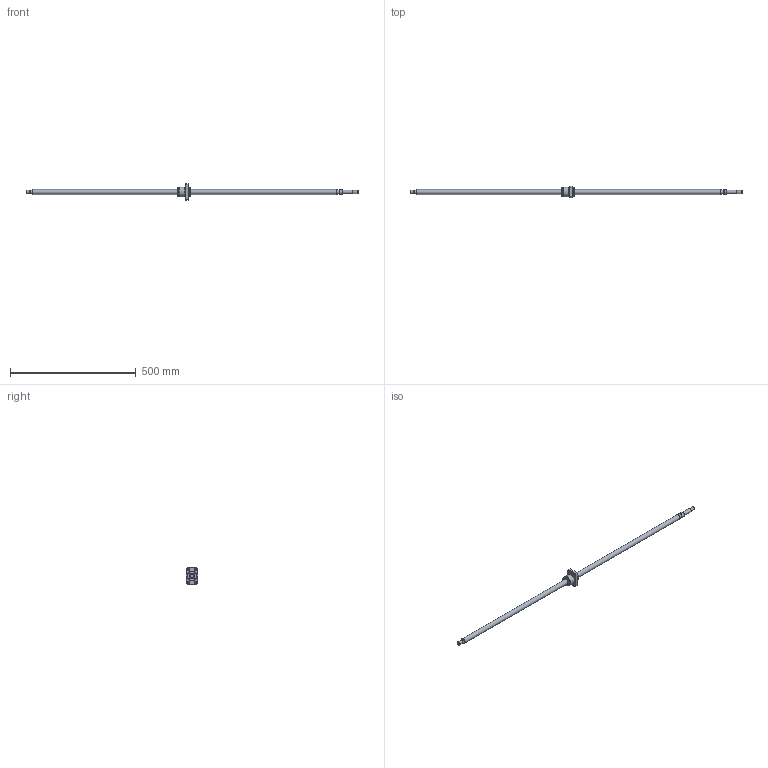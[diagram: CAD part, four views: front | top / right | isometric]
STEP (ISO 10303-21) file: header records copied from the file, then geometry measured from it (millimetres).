
FILE_DESCRIPTION(/* description */ ('STEP AP203'),/* implementation_level */ '2;1');
FILE_NAME(/* name */ 'BNK2020-3.6G0+1320LC5Y(6310)',/* time_stamp */ '2024-07-09T09:40:45+02:00',/* author */ ('License CC BY-ND 4.0'),/* organization */ ('CADENAS'),/* preprocessor_version */ 'ST-DEVELOPER v19.3',/* originating_system */ 'PARTsolutions',/* authorisation */ ' ');
FILE_SCHEMA (('CONFIG_CONTROL_DESIGN'));
Length unit declared in the file: millimetre
Products named in the file (3): BNK2020-3.6G0+1320LC5Y(6310); BNK 2020-3.6G0+1320LC5Y Shaft; BNK 2020-3.6G0+1320LC5Y0 Nut
Assembly tree (2 placements, depth 2):
  BNK2020-3.6G0+1320LC5Y(6310)
    BNK 2020-3.6G0+1320LC5Y Shaft
    BNK 2020-3.6G0+1320LC5Y0 Nut
Bounding box: 1320 x 46 x 66 mm (x, y, z)
Volume: 459714.7 mm3; surface area: 99630.6 mm2
Topology: 2 solids, 2 shells, 136 faces, 309 edges, 199 vertices
Faces by surface type: plane 75, cylinder 35, cone 20, torus 6
Full cylindrical faces by diameter (mm): 5.188 x1, 5.5 x4, 6.6 x4, 11 x4, 12 x1, 14.3 x1, 15 x3, 18 x1, 19.5 x1, 20 x2, 35.1 x1, 38 x2, 39 x2
Entity records: 3695 total; most frequent: CARTESIAN_POINT 671, DIRECTION 626, ORIENTED_EDGE 528, EDGE_CURVE 264, AXIS2_PLACEMENT_3D 247, FACE_BOUND 210, EDGE_LOOP 209, VERTEX_POINT 196
